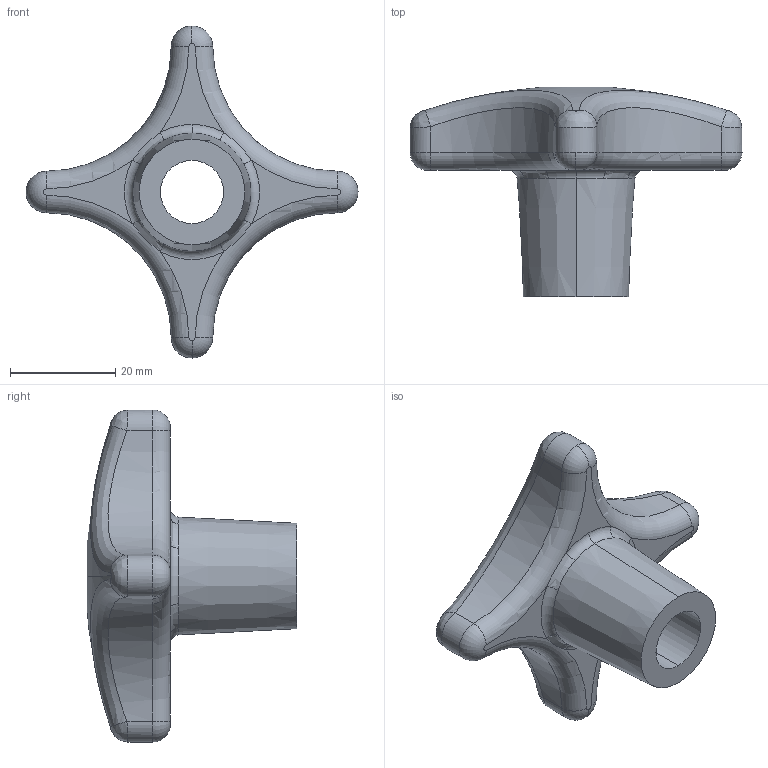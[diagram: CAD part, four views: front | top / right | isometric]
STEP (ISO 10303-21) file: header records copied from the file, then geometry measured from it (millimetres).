
FILE_DESCRIPTION (( 'STEP AP203' ), '1' );
FILE_NAME ('Default.step', '2019-01-26T19:29:12', ( '' ), ( '' ), 'SwSTEP 2.0', 'SolidWorks 2017', '' );
FILE_SCHEMA (( 'CONFIG_CONTROL_DESIGN' ));
Length unit declared in the file: millimetre
Products named in the file (1): Default
Bounding box: 63 x 39.77 x 63 mm (x, y, z)
Volume: 22707.4 mm3; surface area: 7666.6 mm2
Topology: 1 solids, 1 shells, 50 faces, 118 edges, 70 vertices
Faces by surface type: torus 15, cylinder 13, bspline 12, plane 6, cone 2, sphere 2
Entity records: 2884 total; most frequent: CARTESIAN_POINT 1694, DIRECTION 245, ORIENTED_EDGE 236, EDGE_CURVE 118, AXIS2_PLACEMENT_3D 115, CIRCLE 76, VERTEX_POINT 70, EDGE_LOOP 52
